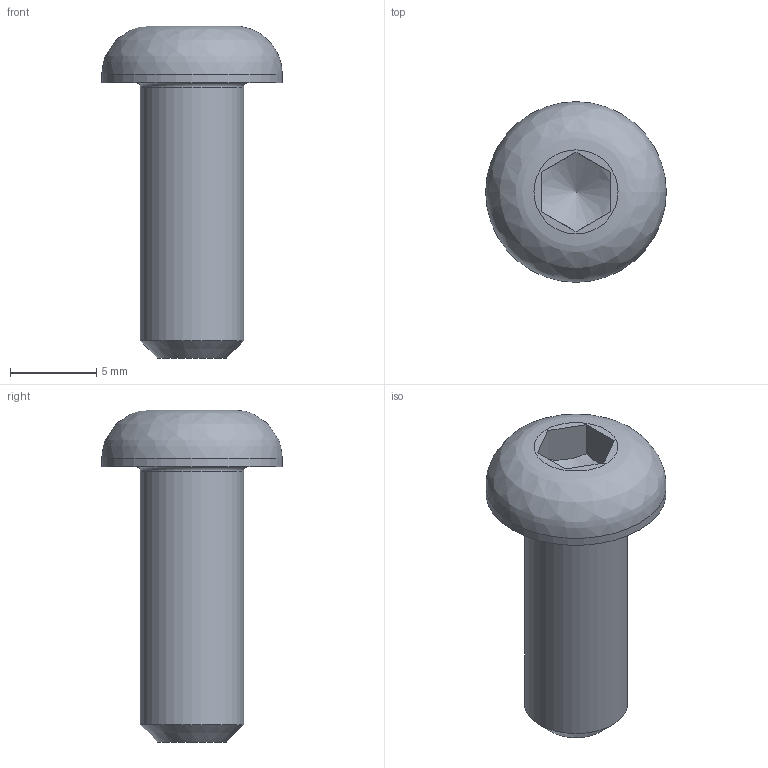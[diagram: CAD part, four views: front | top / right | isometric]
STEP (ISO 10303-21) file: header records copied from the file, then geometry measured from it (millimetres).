
FILE_DESCRIPTION(/* description */ (''),/* implementation_level */ '2;1');
FILE_NAME(/* name */ 'C:\Users\unitec\Documents\Inventor\各種小物\JIS\JIS B 1174 六角穴付きボタンボルト\BASE\M6\M6x16.stp',/* time_stamp */ '2015-07-21T18:23:28+09:00',/* author */ ('unitec'),/* organization */ (''),/* preprocessor_version */ 'ST-DEVELOPER v15.2',/* originating_system */ 'Autodesk Inventor 2014',/* authorisation */ '');
FILE_SCHEMA (('AUTOMOTIVE_DESIGN { 1 0 10303 214 3 1 1 }'));
Length unit declared in the file: millimetre
Products named in the file (1): M6x16
Bounding box: 10.5 x 10.5 x 19.3 mm (x, y, z)
Volume: 644.9 mm3; surface area: 558.7 mm2
Topology: 1 solids, 1 shells, 15 faces, 35 edges, 23 vertices
Faces by surface type: plane 9, cylinder 2, cone 2, torus 1, bspline 1
Full cylindrical faces by diameter (mm): 6 x1, 10.5 x1
Entity records: 423 total; most frequent: CARTESIAN_POINT 105, DIRECTION 60, ORIENTED_EDGE 56, EDGE_CURVE 28, AXIS2_PLACEMENT_3D 24, EDGE_LOOP 21, VERTEX_POINT 21, FACE_OUTER_BOUND 15
